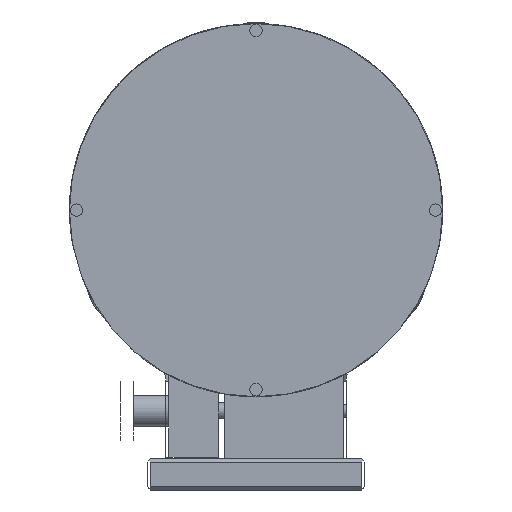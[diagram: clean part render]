
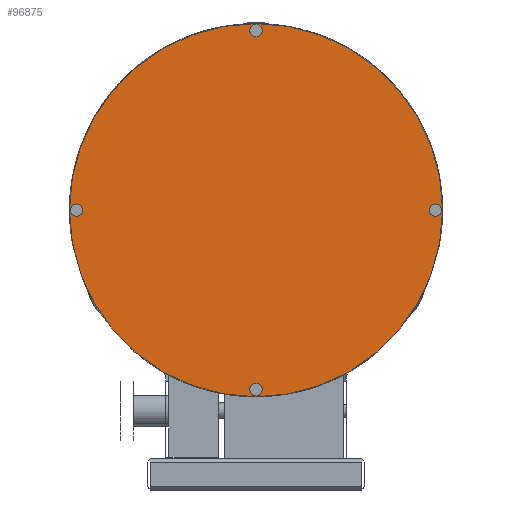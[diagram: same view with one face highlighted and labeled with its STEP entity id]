
A CAD part, left-side view. The second image highlights one B-rep face of the part: STEP entity #96875.
In plain terms, the highlighted planar face has unit normal (-1, 0, 0).
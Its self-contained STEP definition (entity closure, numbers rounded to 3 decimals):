
#7415=CARTESIAN_POINT('',(-278.5,0.,60.));
#7416=VERTEX_POINT('',#7415);
#7417=CARTESIAN_POINT('',(-278.5,0.,0.0));
#7418=DIRECTION('',(1.0,0.0,0.0));
#7419=DIRECTION('',(0.0,0.0,-1.0));
#7420=AXIS2_PLACEMENT_3D('',#7417,#7418,#7419);
#7421=CIRCLE('',#7420,60.);
#7422=EDGE_CURVE('',#7416,#7416,#7421,.T.);
#96823=CARTESIAN_POINT('',(-278.5,0.,0.0));
#96824=DIRECTION('',(1.0,0.0,0.0));
#96825=DIRECTION('',(0.0,0.0,-1.0));
#96826=AXIS2_PLACEMENT_3D('',#96823,#96824,#96825);
#96827=PLANE('',#96826);
#96828=ORIENTED_EDGE('',*,*,#7422,.F.);
#96829=EDGE_LOOP('',(#96828));
#96830=FACE_OUTER_BOUND('',#96829,.T.);
#96831=CARTESIAN_POINT('',(-278.5,-59.75,0.));
#96832=VERTEX_POINT('',#96831);
#96833=CARTESIAN_POINT('',(-278.5,-57.75,0.));
#96834=DIRECTION('',(1.0,0.0,0.0));
#96835=DIRECTION('',(0.0,-1.0,0.0));
#96836=AXIS2_PLACEMENT_3D('',#96833,#96834,#96835);
#96837=CIRCLE('',#96836,2.0);
#96838=EDGE_CURVE('',#96832,#96832,#96837,.T.);
#96839=ORIENTED_EDGE('',*,*,#96838,.T.);
#96840=EDGE_LOOP('',(#96839));
#96841=FACE_BOUND('',#96840,.T.);
#96842=CARTESIAN_POINT('',(-278.5,59.75,0.));
#96843=VERTEX_POINT('',#96842);
#96844=CARTESIAN_POINT('',(-278.5,57.75,0.));
#96845=DIRECTION('',(1.0,0.0,0.0));
#96846=DIRECTION('',(0.0,1.0,0.0));
#96847=AXIS2_PLACEMENT_3D('',#96844,#96845,#96846);
#96848=CIRCLE('',#96847,2.0);
#96849=EDGE_CURVE('',#96843,#96843,#96848,.T.);
#96850=ORIENTED_EDGE('',*,*,#96849,.T.);
#96851=EDGE_LOOP('',(#96850));
#96852=FACE_BOUND('',#96851,.T.);
#96853=CARTESIAN_POINT('',(-278.5,0.,59.75));
#96854=VERTEX_POINT('',#96853);
#96855=CARTESIAN_POINT('',(-278.5,0.,57.75));
#96856=DIRECTION('',(1.0,0.0,0.0));
#96857=DIRECTION('',(0.0,0.0,1.0));
#96858=AXIS2_PLACEMENT_3D('',#96855,#96856,#96857);
#96859=CIRCLE('',#96858,2.0);
#96860=EDGE_CURVE('',#96854,#96854,#96859,.T.);
#96861=ORIENTED_EDGE('',*,*,#96860,.T.);
#96862=EDGE_LOOP('',(#96861));
#96863=FACE_BOUND('',#96862,.T.);
#96864=CARTESIAN_POINT('',(-278.5,0.,-59.75));
#96865=VERTEX_POINT('',#96864);
#96866=CARTESIAN_POINT('',(-278.5,0.,-57.75));
#96867=DIRECTION('',(1.0,0.0,0.0));
#96868=DIRECTION('',(0.0,0.0,-1.0));
#96869=AXIS2_PLACEMENT_3D('',#96866,#96867,#96868);
#96870=CIRCLE('',#96869,2.0);
#96871=EDGE_CURVE('',#96865,#96865,#96870,.T.);
#96872=ORIENTED_EDGE('',*,*,#96871,.T.);
#96873=EDGE_LOOP('',(#96872));
#96874=FACE_BOUND('',#96873,.T.);
#96875=ADVANCED_FACE('',(#96830,#96841,#96852,#96863,#96874),#96827,.F.);
